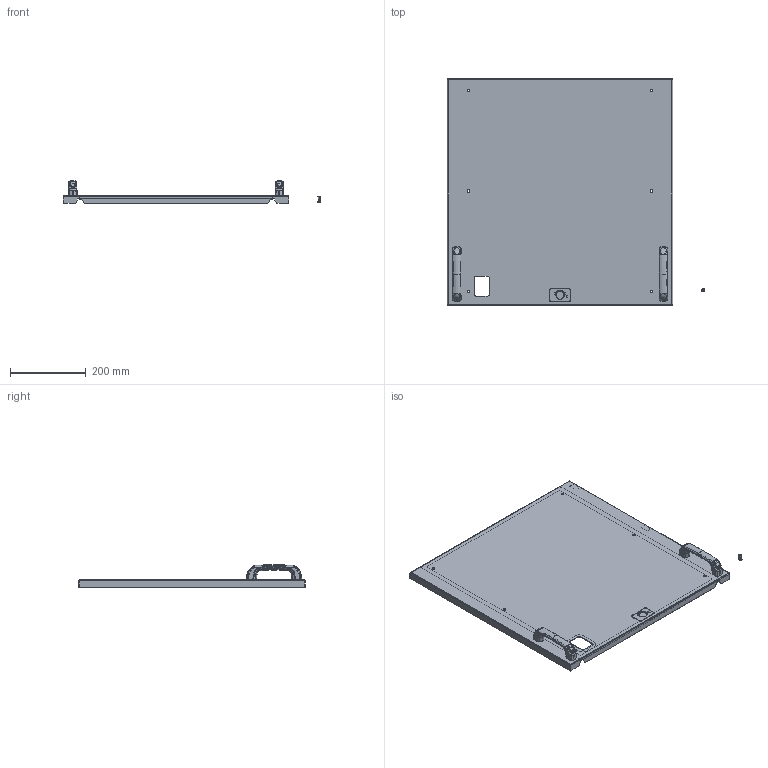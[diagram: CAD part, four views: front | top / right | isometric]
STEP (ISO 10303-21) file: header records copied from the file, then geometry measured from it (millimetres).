
FILE_DESCRIPTION(('CAx-IF Rec.Pracs.---Model Styling and Organization---1.2---2011-12-15','CAx-IF Rec.Pracs.---Geometric and Assembly Validation Properties---4.1---2014-06-16','CAx-IF Rec.Pracs.---PMI Polyline Presentation---2.0---2013-05-24'),'2;1');
FILE_NAME('R5M2W12M1BF.stp','2021-05-05T12:40:53+03:00',(''),(''),'STEP Interface 4.4 by CT CoreTechnologie','3D_Evolution4.4 by CT CoreTechnologie','');
FILE_SCHEMA(('AUTOMOTIVE_DESIGN { 1 0 10303 214 1 1 1 1 }'));
Length unit declared in the file: millimetre
Products named in the file (16): R5M2W12M1BF; PF 3.5x7 RAMmcc 2.0_00; 4.444.002(1); PR.DT477.120.02-poprawa; PR.DT477.120.01; RB.1166.00.01.0_-05; countersunk flat head cross recess screw_din_DIN EN ISO 7046-1 - M6 x 16 - Z - 16N; RB.1166.00.02.0_¢ à 1; Ì6-GOST 5915-70 (DIN 934) (CM110600)_straight; RB.1166.00.04.0_-00; 4.444.002(2); PF 7x14 RAMmcc 2.0_121; RB.1166.00.05.0; AC00C061_AC00C061; Ì6õ12-A5100231_straight; AC00C148_AC00C148
Assembly tree (28 placements, depth 3):
  R5M2W12M1BF
    PF 3.5x7 RAMmcc 2.0_00
    4.444.002(1)
      PR.DT477.120.02-poprawa  x2
      PR.DT477.120.01
    RB.1166.00.01.0_-05
    countersunk flat head cross recess screw_din_DIN EN ISO 7046-1 - M6 x 16 - Z - 16N  x4
    RB.1166.00.02.0_¢ à 1
    Ì6-GOST 5915-70 (DIN 934) (CM110600)_straight  x3
    RB.1166.00.04.0_-00
    4.444.002(2)
      PR.DT477.120.02-poprawa  x2
      PR.DT477.120.01
    PF 7x14 RAMmcc 2.0_121
    RB.1166.00.05.0  x3
    AC00C061_AC00C061
    Ì6õ12-A5100231_straight
    AC00C148_AC00C148  x3
Bounding box: 678 x 597 x 60 mm (x, y, z)
Surface area: 935588.4 mm2 (no closed solid volume)
Topology: 0 solids, 35 shells, 2221 faces, 5485 edges, 3314 vertices
Faces by surface type: bspline 1162, plane 698, cylinder 361
Entity records: 47100 total; most frequent: CARTESIAN_POINT 22178, ORIENTED_EDGE 5278, DIRECTION 4804, EDGE_CURVE 2639, AXIS2_PLACEMENT_3D 1827, VERTEX_POINT 1615, CIRCLE 1269, VECTOR 1150
